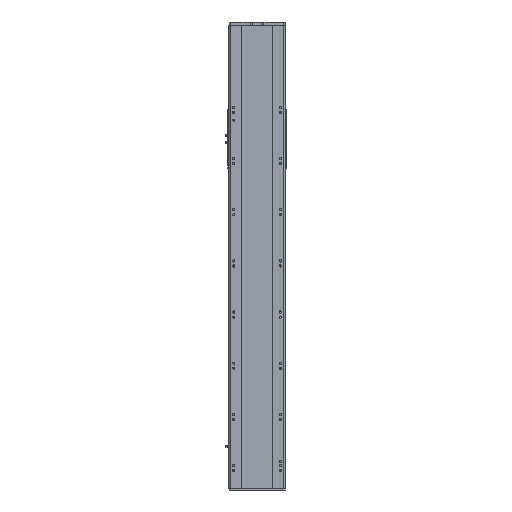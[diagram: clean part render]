
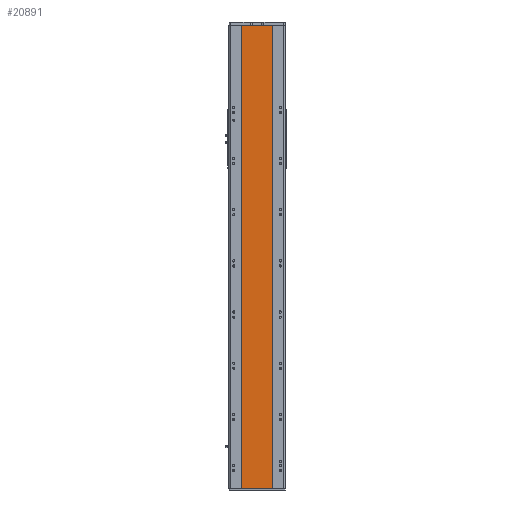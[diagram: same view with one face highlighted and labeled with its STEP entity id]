
A CAD part, front view. The second image highlights one B-rep face of the part: STEP entity #20891.
In plain terms, the highlighted planar face has unit normal (0, -1, 0).
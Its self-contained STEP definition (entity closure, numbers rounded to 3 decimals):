
#96 = ORIENTED_EDGE ( 'NONE', *, *, #35218, .F. ) ;
#1521 = DIRECTION ( 'NONE',  ( -1., 0., 0. ) ) ;
#2074 = ORIENTED_EDGE ( 'NONE', *, *, #8165, .T. ) ;
#2147 = LINE ( 'NONE', #34162, #33394 ) ;
#3952 = CARTESIAN_POINT ( 'NONE',  ( -59., 1., 905.5 ) ) ;
#5306 = VERTEX_POINT ( 'NONE', #20186 ) ;
#6991 = ORIENTED_EDGE ( 'NONE', *, *, #31201, .F. ) ;
#7588 = DIRECTION ( 'NONE',  ( 0., 1., 0. ) ) ;
#8165 = EDGE_CURVE ( 'NONE', #32521, #19279, #27079, .T. ) ;
#10063 = DIRECTION ( 'NONE',  ( 0., 0., -1. ) ) ;
#11793 = LINE ( 'NONE', #27495, #14161 ) ;
#14161 = VECTOR ( 'NONE', #15334, 1000. ) ;
#15334 = DIRECTION ( 'NONE',  ( 1., 0., 0. ) ) ;
#16288 = VECTOR ( 'NONE', #28528, 1000. ) ;
#17894 = VERTEX_POINT ( 'NONE', #34309 ) ;
#19032 = VECTOR ( 'NONE', #37286, 1000. ) ;
#19279 = VERTEX_POINT ( 'NONE', #20185 ) ;
#20023 = AXIS2_PLACEMENT_3D ( 'NONE', #34831, #7588, #1521 ) ;
#20185 = CARTESIAN_POINT ( 'NONE',  ( -59., 1., -905.5 ) ) ;
#20186 = CARTESIAN_POINT ( 'NONE',  ( 59., 1., 905.5 ) ) ;
#20891 = ADVANCED_FACE ( 'NONE', ( #32114 ), #31767, .F. ) ;
#25740 = LINE ( 'NONE', #34395, #16288 ) ;
#27079 = LINE ( 'NONE', #3952, #19032 ) ;
#27495 = CARTESIAN_POINT ( 'NONE',  ( -59., 1., -905.5 ) ) ;
#28528 = DIRECTION ( 'NONE',  ( 1., 0., 0. ) ) ;
#28710 = ORIENTED_EDGE ( 'NONE', *, *, #38373, .T. ) ;
#31201 = EDGE_CURVE ( 'NONE', #32521, #5306, #25740, .T. ) ;
#31767 = PLANE ( 'NONE',  #20023 ) ;
#32114 = FACE_OUTER_BOUND ( 'NONE', #37136, .T. ) ;
#32521 = VERTEX_POINT ( 'NONE', #36549 ) ;
#33394 = VECTOR ( 'NONE', #10063, 1000. ) ;
#34162 = CARTESIAN_POINT ( 'NONE',  ( 59., 1., 905.5 ) ) ;
#34309 = CARTESIAN_POINT ( 'NONE',  ( 59., 1., -905.5 ) ) ;
#34395 = CARTESIAN_POINT ( 'NONE',  ( -59., 1., 905.5 ) ) ;
#34831 = CARTESIAN_POINT ( 'NONE',  ( -59., 1., 905.5 ) ) ;
#35218 = EDGE_CURVE ( 'NONE', #5306, #17894, #2147, .T. ) ;
#36549 = CARTESIAN_POINT ( 'NONE',  ( -59., 1., 905.5 ) ) ;
#37136 = EDGE_LOOP ( 'NONE', ( #28710, #96, #6991, #2074 ) ) ;
#37286 = DIRECTION ( 'NONE',  ( 0., 0., -1. ) ) ;
#38373 = EDGE_CURVE ( 'NONE', #19279, #17894, #11793, .T. ) ;
